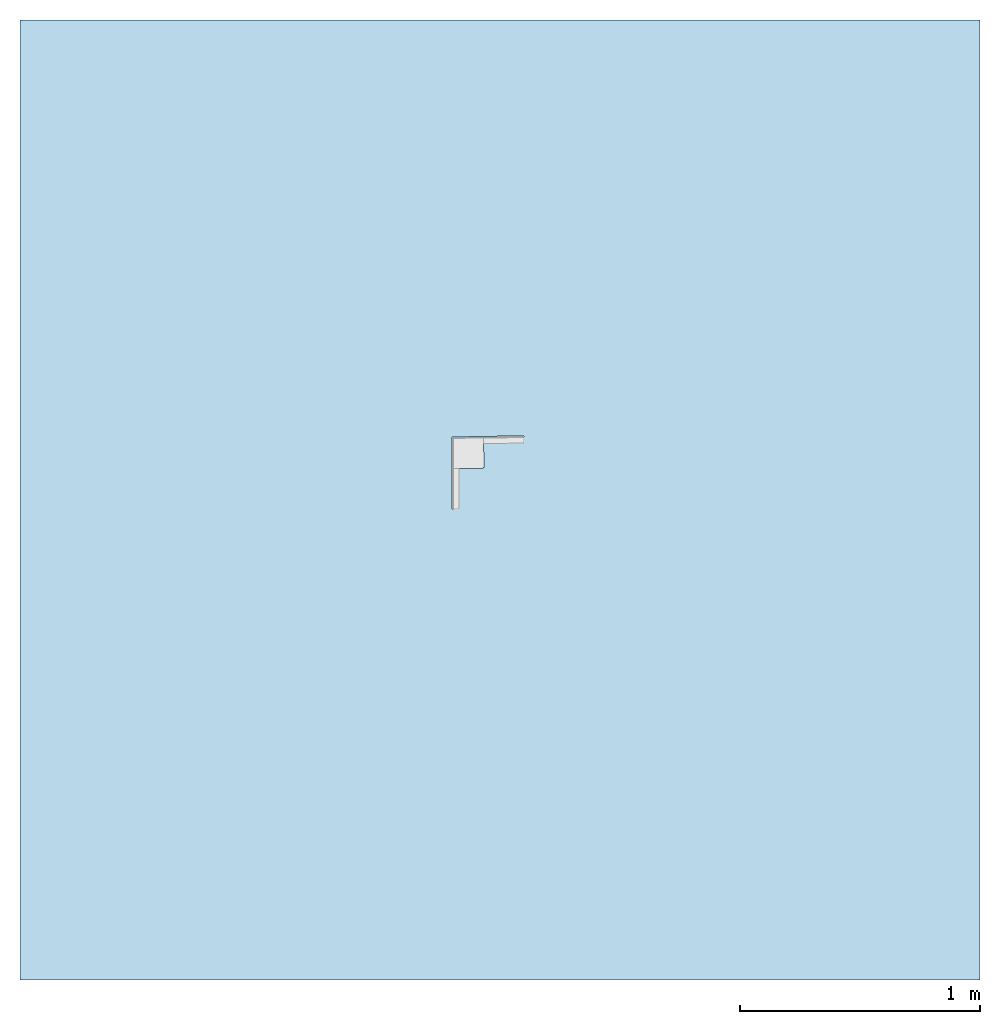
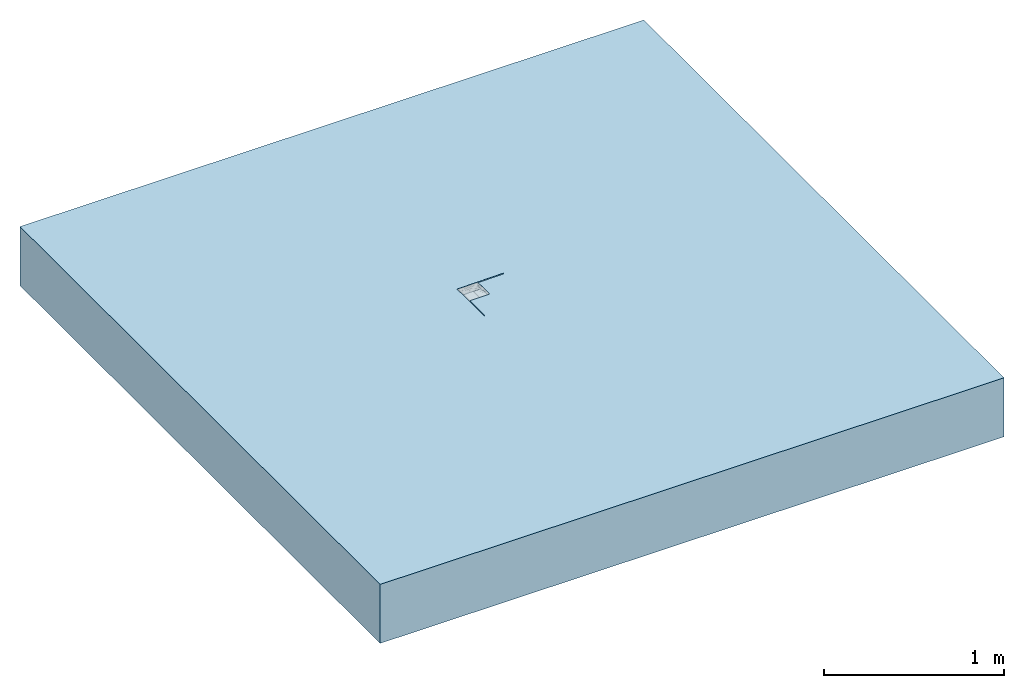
# One storey, incomplete: 1 slab, 2 openings.
"""IFC2X3 building model written with IfcOpenShell, lengths in millimetres."""

from ifc_helpers import new_model, entity, si_unit, converted_unit, derived_unit, direction, frame, frame_2d, origin, place, context, subcontext, project, spatial, polyline, rectangle, outline, extrude, faceted_brep, material, layer, layer_set, layer_usage, element, save


model = new_model("IFC2X3")

# Units and contexts
model_context = context("Model", 3, precision=1e-05, world=origin(), true_north=direction((2.0, 6.12303176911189e-17, 1.0)))
context_of_model = context(None, 3, precision=1e-05, world=origin(), true_north=direction((2.0, 6.12303176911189e-17, 1.0)))
body_context = subcontext(model_context, "Body", "Model", "MODEL_VIEW")
ifc_project = project(units=[si_unit("LENGTHUNIT", "METRE", prefix="MILLI"), si_unit("AREAUNIT", "SQUARE_METRE"), si_unit("VOLUMEUNIT", "CUBIC_METRE"), converted_unit("PLANEANGLEUNIT", "DEGREE", entity("IfcRatioMeasure", 0.0174532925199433), si_unit("PLANEANGLEUNIT", "RADIAN"), dimensions=[0, 0, 0, 0, 0, 0, 0]), si_unit("MASSUNIT", "GRAM", prefix="KILO"), si_unit("TIMEUNIT", "SECOND"), si_unit("THERMODYNAMICTEMPERATUREUNIT", "KELVIN"), derived_unit("THERMALTRANSMITTANCEUNIT", [(si_unit("MASSUNIT", "GRAM", prefix="KILO"), 1), (si_unit("THERMODYNAMICTEMPERATUREUNIT", "KELVIN"), -1), (si_unit("TIMEUNIT", "SECOND"), -3)]), derived_unit("VOLUMETRICFLOWRATEUNIT", [(si_unit("LENGTHUNIT", "METRE"), 3), (si_unit("TIMEUNIT", "SECOND"), -1)]), si_unit("POWERUNIT", "WATT")], contexts=[model_context, context_of_model])

# Site, building, storey
site_placement = place(None, origin())
site = spatial("IfcSite", under=ifc_project, at=site_placement, Name="Default", CompositionType="ELEMENT")
building_placement = place(site_placement, origin())
building = spatial("IfcBuilding", under=site, at=building_placement, CompositionType="ELEMENT")
storey_placement = place(building_placement, origin())
storey = spatial("IfcBuildingStorey", under=building, at=storey_placement, Name="Level 1", CompositionType="ELEMENT", Elevation=0.0)

# Slab, openings
ifc_material = material(Name="Concrete, Broom Finish")
ifc_layer = layer(ifc_material, 400.0)
ifc_layer_set = layer_set([ifc_layer], Name="Floor:Generic Floor - 400mm")
ifc_layer_usage = layer_usage(ifc_layer_set, "AXIS3", "POSITIVE", 0.0)
slab_placement = place(storey_placement, origin())
slab = element("IfcSlab", 1, at=slab_placement, inside=storey, material=ifc_layer_usage, Name="Floor:Generic Floor - 400mm", ObjectType="Floor:Generic Floor - 400mm", PredefinedType="FLOOR", context=body_context, shape_type="SweptSolid", body=[
    extrude(rectangle(XDim=4000.0, YDim=4000.0, at=frame_2d((0.0, 0.0), x_axis=(0.0, -1.0))), frame((-42.176138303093, 2.05004766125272, 0.0), z_axis=(0.0, 0.0, -1.0), x_axis=(-1.0, 0.0, 0.0)), (0.0, 0.0, 1.0), 400.0),
])
opening_1_placement = place(slab_placement, origin())
element("IfcOpeningElement", 2, at=opening_1_placement, cuts=slab, ObjectType="Recess", context=body_context, shape_type="Brep", body=[
    faceted_brep([(59.3379126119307, 139.630728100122, -21.0), (57.191266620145, 262.61199460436, -21.0), (-108.740300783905, 136.696911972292, -21.0), (52.8273003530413, 262.535821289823, -21.0), (-112.885208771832, -35.62479346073, -21.0), (-112.885208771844, 132.479022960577, -21.0), (-235.885208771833, -35.6247934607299, -21.0), (-235.885208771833, 132.479022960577, -21.0), (-235.885208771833, 128.114391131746, -21.0), (-110.904399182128, 260.678026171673, -20.0), (-110.886946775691, 259.678178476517, -21.0), (-110.899287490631, 260.385177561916, -20.7071067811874), (-108.740300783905, 136.696911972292, 0.0), (-110.904399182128, 260.678026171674, 0.0), (59.3379126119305, 139.630728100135, -53.0), (-112.885208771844, 136.624562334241, -53.0), (-112.885208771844, 136.624562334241, 0.0), (57.069099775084, 269.610928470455, -53.0), (-242.885208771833, 264.37520653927, -53.0), (-242.885208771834, -35.62479346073, -53.0), (-112.885208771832, -35.62479346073, -53.0), (57.1738142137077, 263.611842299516, 0.0), (57.069099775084, 269.610928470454, 0.0), (-236.885208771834, 132.479022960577, 0.0), (-242.885208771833, 264.37520653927, 0.0), (-242.885208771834, -35.6247934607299, 0.0), (-112.885208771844, 132.479022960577, 0.0), (-236.885208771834, -35.6247934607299, 0.0), (-236.59231555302, 132.479022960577, -20.7071067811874), (-236.885208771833, 132.479022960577, -20.0), (57.1789259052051, 263.318993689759, -20.7071067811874), (57.1738142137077, 263.611842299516, -20.0), (-102.176467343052, 260.830372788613, -20.0), (-236.59231555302, -35.6247934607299, -20.7071067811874), (-236.885208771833, -35.6247934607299, -20.0), (-236.885208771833, -26.895532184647, -20.0), (29.1173841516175, 262.830557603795, -20.7057243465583), (30.9290454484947, 262.153585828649, -21.0), (35.6850040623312, 262.983503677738, -20.6650615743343), (11.1225511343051, 262.483858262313, -20.736999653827), (17.0109892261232, 262.653858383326, -20.6691804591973), (14.1873569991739, 262.861510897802, -20.0), (-103.56647286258, 260.513172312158, -20.7071067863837), (-5.8380635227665, 261.511813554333, -21.0), (-3.22371786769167, 262.23800939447, -20.7327865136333), (-9.40499221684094, 262.10281419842, -20.7572180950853), (43.7228515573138, 263.050762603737, -20.7389525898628), (41.4339337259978, 262.336949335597, -21.0), (-97.807390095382, 260.61369747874, -20.70710678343), (-93.4485355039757, 260.982719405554, -20.0), (-58.3625049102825, 260.594996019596, -21.0), (-54.1678357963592, 261.381382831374, -20.7011030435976), (-59.8474468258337, 261.266321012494, -20.7169364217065), (-87.2901606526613, 260.090061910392, -21.0), (-84.23130676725, 260.808617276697, -20.7467885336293), (-92.0483073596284, 260.714222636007, -20.7071067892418), (-39.9908399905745, 261.596992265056, -20.7320844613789), (-37.3527283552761, 260.961723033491, -21.0), (-34.7391412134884, 261.610481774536, -20.7977059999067), (-53.1100607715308, 260.68667777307, -21.0), (-48.4860767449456, 261.480614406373, -20.7010459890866), (-93.4310831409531, 259.982871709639, -21.0), (-19.5825290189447, 261.974710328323, -20.7114860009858), (-22.6581783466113, 262.218369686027, -20.0), (-29.4858956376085, 261.777141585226, -20.735062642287), (44.8919689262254, 263.397461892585, -20.0), (49.7444985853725, 263.189225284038, -20.7071067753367), (-67.2647405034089, 261.439759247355, -20.0), (-75.9926723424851, 261.287412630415, -20.0), (-71.624846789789, 261.142442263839, -20.6272441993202), (8.04643461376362, 262.754320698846, -20.0), (5.19376263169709, 262.445721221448, -20.6712472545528), (36.1814895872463, 262.245267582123, -21.0), (32.6101241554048, 263.183081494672, -20.0), (-4.23541015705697, 262.539940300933, -20.0), (52.8098480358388, 263.535668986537, -20.0), (-102.159014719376, 259.830525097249, -21.0), (46.6863778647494, 262.428631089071, -21.0), (38.7510465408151, 263.290271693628, -20.0), (-81.1492381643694, 260.197252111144, -21.0), (-78.0494391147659, 260.934016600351, -20.7308357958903), (-58.5368091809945, 261.592105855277, -20.0), (-49.8088773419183, 261.744452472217, -20.0), (25.6766013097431, 262.061904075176, -21.0), (22.9263999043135, 262.717667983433, -20.7105351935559), (26.4692017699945, 263.075891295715, -20.0), (15.1717130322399, 261.878540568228, -21.0), (20.4241571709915, 261.970222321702, -21.0), (4.66682475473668, 261.695177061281, -21.0), (9.91926889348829, 261.786858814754, -21.0), (20.3282793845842, 262.968701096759, -20.0), (-0.585619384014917, 261.603495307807, -21.0), (1.90551222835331, 262.64713049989, -20.0), (-10.3763325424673, 262.432750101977, -20.0), (-16.5172554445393, 262.325559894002, -20.0), (-14.4441777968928, 262.144266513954, -20.6225826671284), (-11.0905076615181, 261.42013180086, -21.0), (-16.3429518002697, 261.328450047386, -21.0), (-84.7206041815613, 261.135066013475, -20.0), (-75.0083156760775, 260.304442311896, -21.0), (-65.5227017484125, 261.139596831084, -20.7428296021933), (-68.8673931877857, 260.411632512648, -21.0), (-63.614949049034, 260.503314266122, -21.0), (-34.9400231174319, 262.003989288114, -20.0), (-41.0809455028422, 261.896799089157, -20.0), (-47.8576166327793, 260.778359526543, -21.0), (-42.6051724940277, 260.870041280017, -21.0), (-28.7991007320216, 262.11117948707, -20.0), (-32.1002842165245, 261.053404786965, -21.0), (-26.8478400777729, 261.145086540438, -21.0), (-21.5953959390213, 261.236768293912, -21.0), (-236.593695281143, 104.413231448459, -20.7057243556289), (-235.885208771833, 106.212802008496, -21.0), (-236.631997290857, 110.982520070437, -20.665061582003), (-236.561101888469, 86.415088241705, -20.7369996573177), (-236.628308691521, 92.3055965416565, -20.6691804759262), (-236.885208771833, 89.4860187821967, -20.0), (-236.592315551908, -28.2908618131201, -20.7071067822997), (-235.885208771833, 69.4400926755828, -21.0), (-236.565667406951, 72.0667139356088, -20.732786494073), (-236.538370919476, 65.8840215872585, -20.7572180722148), (-236.558966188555, 119.020317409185, -20.7389525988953), (-235.885208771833, 116.719290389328, -21.0), (-236.592315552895, -22.5309017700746, -20.7071067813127), (-236.885208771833, -18.1662709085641, -20.0), (-235.885208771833, 16.9076507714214, -21.0), (-236.598268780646, 21.1154039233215, -20.701103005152), (-236.582347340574, 15.4346497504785, -20.716936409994), (-235.885208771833, -12.0244119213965, -21.0), (-236.55027034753, -8.95348423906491, -20.7467885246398), (-236.592315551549, -16.7709417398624, -20.707106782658), (-236.566422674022, 35.2940040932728, -20.7320844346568), (-235.885208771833, 37.920627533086, -21.0), (-236.488255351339, 40.545138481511, -20.7977059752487), (-235.885208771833, 22.1608949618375, -21.0), (-236.598324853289, 26.7980294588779, -20.7010459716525), (-235.885208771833, -18.1662684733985, -21.0), (-236.587909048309, 55.7057984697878, -20.7114859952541), (-236.885208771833, 52.6348707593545, -20.0), (-236.5632079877, 45.8004926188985, -20.7350626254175), (-236.885208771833, 120.195308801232, -20.0), (-236.592315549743, 125.043463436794, -20.7071067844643), (-236.885208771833, 8.02151291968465, -20.0), (-236.885208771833, -0.707748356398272, -20.0), (-236.664031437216, 3.65688164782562, -20.6272441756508), (-236.885208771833, 83.3441607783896, -20.0), (-236.626442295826, 80.4865372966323, -20.6712472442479), (-235.885208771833, 111.466046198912, -21.0), (-236.885208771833, 107.911592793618, -20.0), (-236.885208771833, 71.0604447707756, -20.0), (-236.885208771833, 128.114392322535, -20.0), (-235.885208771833, -26.8955321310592, -21.0), (-235.885208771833, 121.972534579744, -21.0), (-236.885208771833, 114.053450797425, -20.0), (-235.885208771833, -5.8825530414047, -21.0), (-236.567762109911, -2.77036963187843, -20.730835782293), (-236.885208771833, 16.7507741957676, -20.0), (-236.885208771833, 25.4800354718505, -20.0), (-235.885208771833, 100.95955781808, -21.0), (-236.588870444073, 98.2212200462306, -20.7105351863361), (-236.885208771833, 101.769734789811, -20.0), (-235.885208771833, 90.4530694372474, -21.0), (-235.885208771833, 95.7063136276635, -21.0), (-235.885208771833, 79.9465810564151, -21.0), (-235.885208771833, 85.1998252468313, -21.0), (-236.885208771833, 95.6278767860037, -20.0), (-235.885208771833, 74.693336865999, -21.0), (-236.885208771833, 77.2023027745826, -20.0), (-236.885208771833, 64.9185867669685, -20.0), (-236.885208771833, 58.7767287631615, -20.0), (-236.667762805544, 60.8463265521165, -20.6225826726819), (-235.885208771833, 64.1868484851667, -21.0), (-235.885208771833, 58.9336042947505, -21.0), (-236.885208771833, -9.43700963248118, -20.0), (-235.885208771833, 0.259305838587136, -21.0), (-236.554689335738, 9.75804746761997, -20.7428295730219), (-235.885208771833, 6.40116239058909, -21.0), (-235.885208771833, 11.6544065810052, -21.0), (-236.885208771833, 40.3511547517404, -20.0), (-236.885208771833, 34.2092967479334, -20.0), (-235.885208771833, 27.4141391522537, -21.0), (-235.885208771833, 32.6673833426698, -21.0), (-236.885208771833, 46.4930127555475, -20.0), (-235.885208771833, 43.1738717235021, -21.0), (-235.885208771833, 48.4271159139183, -21.0), (-235.885208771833, 53.6803601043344, -21.0)], [[[0, 1, 2]], [[2, 1, 3]], [[4, 5, 6]], [[5, 7, 8]], [[9, 10, 11]], [[2, 10, 12]], [[9, 13, 10]], [[12, 10, 13]], [[14, 0, 2]], [[14, 2, 15]], [[16, 15, 2]], [[16, 2, 12]], [[17, 14, 15]], [[17, 15, 18]], [[19, 18, 15]], [[19, 15, 20]], [[21, 22, 13]], [[12, 13, 16]], [[16, 13, 23]], [[22, 24, 13]], [[23, 24, 25]], [[23, 26, 16]], [[27, 23, 25]], [[23, 13, 24]], [[28, 7, 29]], [[26, 7, 5]], [[7, 23, 29]], [[23, 7, 26]], [[5, 15, 16]], [[5, 16, 26]], [[5, 4, 20]], [[5, 20, 15]], [[1, 0, 14]], [[30, 1, 17]], [[14, 17, 1]], [[17, 31, 30]], [[31, 22, 21]], [[17, 22, 31]], [[21, 9, 32]], [[13, 9, 21]], [[22, 17, 24]], [[18, 24, 17]], [[20, 4, 6]], [[19, 6, 33]], [[6, 19, 20]], [[33, 34, 19]], [[27, 25, 34]], [[34, 25, 19]], [[29, 23, 27]], [[27, 34, 35]], [[24, 18, 19]], [[19, 25, 24]], [[36, 37, 38]], [[39, 40, 41]], [[42, 32, 9]], [[43, 44, 45]], [[46, 38, 47]], [[32, 48, 49]], [[50, 51, 52]], [[53, 54, 55]], [[56, 57, 58]], [[51, 59, 60]], [[55, 48, 61]], [[42, 48, 32]], [[62, 63, 64]], [[65, 46, 66]], [[67, 68, 69]], [[39, 70, 71]], [[72, 38, 37]], [[38, 73, 36]], [[74, 45, 44]], [[3, 1, 30]], [[30, 31, 75]], [[30, 66, 3]], [[76, 61, 48]], [[11, 10, 42]], [[66, 77, 3]], [[46, 77, 66]], [[66, 75, 65]], [[75, 66, 30]], [[72, 47, 38]], [[78, 38, 46]], [[73, 38, 78]], [[46, 65, 78]], [[54, 79, 80]], [[70, 39, 41]], [[81, 51, 82]], [[83, 36, 84]], [[36, 85, 84]], [[86, 87, 40]], [[86, 40, 39]], [[88, 89, 71]], [[90, 40, 84]], [[43, 91, 44]], [[39, 71, 89]], [[90, 84, 85]], [[36, 73, 85]], [[91, 88, 71]], [[71, 92, 44]], [[93, 45, 74]], [[71, 44, 91]], [[41, 40, 90]], [[62, 94, 63]], [[45, 93, 95]], [[96, 43, 45]], [[95, 62, 97]], [[74, 44, 92]], [[71, 70, 92]], [[40, 87, 84]], [[47, 77, 46]], [[87, 83, 84]], [[55, 49, 48]], [[97, 96, 95]], [[76, 48, 42]], [[80, 98, 54]], [[98, 55, 54]], [[98, 49, 55]], [[79, 54, 53]], [[55, 61, 53]], [[68, 98, 80]], [[80, 69, 68]], [[80, 99, 69]], [[67, 69, 100]], [[60, 82, 51]], [[101, 100, 69]], [[67, 100, 81]], [[101, 69, 99]], [[80, 79, 99]], [[100, 102, 52]], [[76, 42, 10]], [[100, 101, 102]], [[11, 42, 9]], [[64, 103, 58]], [[104, 60, 56]], [[36, 83, 37]], [[52, 102, 50]], [[60, 104, 82]], [[105, 106, 60]], [[106, 56, 60]], [[56, 106, 57]], [[103, 104, 56]], [[107, 103, 64]], [[64, 108, 109]], [[108, 58, 57]], [[63, 107, 64]], [[94, 62, 95]], [[110, 62, 109]], [[64, 109, 62]], [[56, 58, 103]], [[64, 58, 108]], [[110, 97, 62]], [[94, 95, 93]], [[96, 45, 95]], [[52, 81, 100]], [[52, 51, 81]], [[89, 86, 39]], [[105, 60, 59]], [[51, 50, 59]], [[111, 112, 113]], [[114, 115, 116]], [[117, 35, 34]], [[118, 119, 120]], [[121, 113, 122]], [[35, 123, 124]], [[125, 126, 127]], [[128, 129, 130]], [[131, 132, 133]], [[126, 134, 135]], [[130, 123, 136]], [[117, 123, 35]], [[137, 138, 139]], [[140, 121, 141]], [[142, 143, 144]], [[114, 145, 146]], [[147, 113, 112]], [[113, 148, 111]], [[149, 120, 119]], [[8, 7, 28]], [[28, 29, 150]], [[28, 141, 8]], [[151, 136, 123]], [[33, 6, 117]], [[141, 152, 8]], [[121, 152, 141]], [[141, 150, 140]], [[150, 141, 28]], [[147, 122, 113]], [[153, 113, 121]], [[148, 113, 153]], [[121, 140, 153]], [[129, 154, 155]], [[145, 114, 116]], [[156, 126, 157]], [[158, 111, 159]], [[111, 160, 159]], [[161, 162, 115]], [[161, 115, 114]], [[163, 164, 146]], [[165, 115, 159]], [[118, 166, 119]], [[114, 146, 164]], [[165, 159, 160]], [[111, 148, 160]], [[166, 163, 146]], [[146, 167, 119]], [[168, 120, 149]], [[146, 119, 166]], [[116, 115, 165]], [[137, 169, 138]], [[120, 168, 170]], [[171, 118, 120]], [[170, 137, 172]], [[149, 119, 167]], [[146, 145, 167]], [[115, 162, 159]], [[122, 152, 121]], [[162, 158, 159]], [[130, 124, 123]], [[172, 171, 170]], [[151, 123, 117]], [[155, 173, 129]], [[173, 130, 129]], [[173, 124, 130]], [[154, 129, 128]], [[130, 136, 128]], [[143, 173, 155]], [[155, 144, 143]], [[155, 174, 144]], [[142, 144, 175]], [[135, 157, 126]], [[176, 175, 144]], [[142, 175, 156]], [[176, 144, 174]], [[155, 154, 174]], [[175, 177, 127]], [[151, 117, 6]], [[175, 176, 177]], [[33, 117, 34]], [[139, 178, 133]], [[179, 135, 131]], [[111, 158, 112]], [[127, 177, 125]], [[135, 179, 157]], [[180, 181, 135]], [[181, 131, 135]], [[131, 181, 132]], [[178, 179, 131]], [[182, 178, 139]], [[139, 183, 184]], [[183, 133, 132]], [[138, 182, 139]], [[169, 137, 170]], [[185, 137, 184]], [[139, 184, 137]], [[131, 133, 178]], [[139, 133, 183]], [[185, 172, 137]], [[169, 170, 168]], [[171, 120, 170]], [[127, 156, 175]], [[127, 126, 156]], [[164, 161, 114]], [[180, 135, 134]], [[126, 125, 134]], [[2, 3, 77]], [[2, 77, 47]], [[2, 47, 72]], [[2, 72, 37]], [[2, 37, 83]], [[2, 83, 87]], [[2, 87, 86]], [[2, 86, 89]], [[2, 89, 88]], [[2, 88, 91]], [[2, 91, 43]], [[2, 43, 96]], [[2, 96, 97]], [[2, 97, 110]], [[2, 110, 109]], [[2, 109, 108]], [[2, 108, 57]], [[2, 57, 106]], [[2, 106, 105]], [[2, 105, 59]], [[2, 59, 50]], [[2, 50, 102]], [[2, 102, 101]], [[2, 101, 99]], [[2, 99, 79]], [[2, 79, 53]], [[2, 53, 61]], [[2, 61, 76]], [[2, 76, 10]], [[5, 8, 152]], [[5, 152, 122]], [[5, 122, 147]], [[5, 147, 112]], [[5, 112, 158]], [[5, 158, 162]], [[5, 162, 161]], [[5, 161, 164]], [[5, 164, 163]], [[5, 163, 166]], [[5, 166, 118]], [[5, 118, 171]], [[5, 171, 172]], [[5, 172, 185]], [[5, 185, 184]], [[5, 184, 183]], [[5, 183, 132]], [[5, 132, 181]], [[5, 181, 180]], [[5, 180, 134]], [[5, 134, 125]], [[5, 125, 177]], [[5, 177, 176]], [[5, 176, 174]], [[5, 174, 154]], [[5, 154, 128]], [[5, 128, 136]], [[5, 136, 151]], [[5, 151, 6]], [[21, 32, 49]], [[21, 49, 98]], [[21, 98, 68]], [[21, 68, 67]], [[21, 67, 81]], [[21, 81, 82]], [[21, 82, 104]], [[21, 104, 103]], [[21, 103, 107]], [[21, 107, 63]], [[21, 63, 94]], [[21, 94, 93]], [[21, 93, 74]], [[21, 74, 92]], [[21, 92, 70]], [[21, 70, 41]], [[21, 41, 90]], [[21, 90, 85]], [[21, 85, 73]], [[21, 73, 78]], [[21, 78, 65]], [[21, 65, 75]], [[21, 75, 31]], [[27, 35, 124]], [[27, 124, 173]], [[27, 173, 143]], [[27, 143, 142]], [[27, 142, 156]], [[27, 156, 157]], [[27, 157, 179]], [[27, 179, 178]], [[27, 178, 182]], [[27, 182, 138]], [[27, 138, 169]], [[27, 169, 168]], [[27, 168, 149]], [[27, 149, 167]], [[27, 167, 145]], [[27, 145, 116]], [[27, 116, 165]], [[27, 165, 160]], [[27, 160, 148]], [[27, 148, 153]], [[27, 153, 140]], [[27, 140, 150]], [[27, 150, 29]]]),
])
opening_2_placement = place(slab_placement, origin())
element("IfcOpeningElement", 3, at=opening_2_placement, cuts=slab, ObjectType="Recess", context=body_context, shape_type="SweptSolid", body=[
    extrude(outline(polyline([(-42.2500000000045, -67.0), (3.7499999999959, -67.0), (3.75000000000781, -65.0), (34.7500000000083, -65.0), (34.7500000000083, 65.0), (3.7499999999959, 65.0), (3.7499999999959, 67.0), (-42.2500000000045, 67.0), (-42.2500000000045, -67.0)])), frame((-242.885208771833, 264.37520653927, -4996.25000000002), z_axis=(0.0, 1.0, 0.0), x_axis=(0.0, 0.0, -1.0)), (0.0, 0.0, 1.0), 600.0),
])

save(model, "model.ifc")
